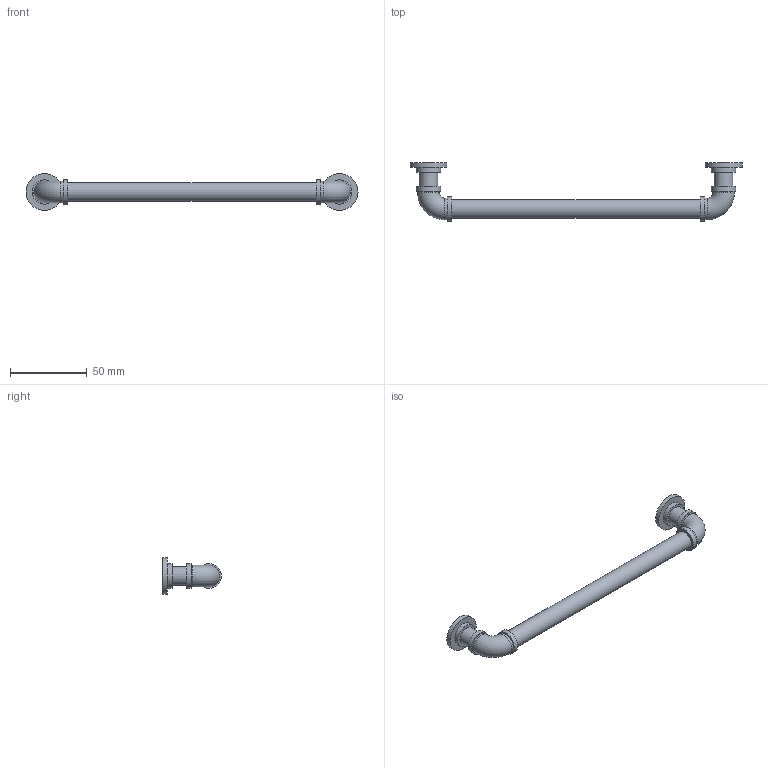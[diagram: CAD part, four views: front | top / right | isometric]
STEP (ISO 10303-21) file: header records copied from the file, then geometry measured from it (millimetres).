
FILE_DESCRIPTION( ( 'STEP AP214' ), '1' );
FILE_NAME( 'D:/Yug/2020/ProDecor_2020/QC/9266564.stp', '2020-06-01T11:59:30', ( '' ), ( '' ), ' ', 'PARTsolutions', ' ' );
FILE_SCHEMA( ( 'AUTOMOTIVE_DESIGN { 1 0 10303 214 1 1 1 1 }' ) );
Length unit declared in the file: millimetre
Products named in the file (1): _9266564
Bounding box: 216 x 38 x 24 mm (x, y, z)
Volume: 32469.4 mm3; surface area: 12117.8 mm2
Topology: 1 solids, 1 shells, 35 faces, 53 edges, 34 vertices
Faces by surface type: cylinder 17, plane 16, torus 2
Full cylindrical faces by diameter (mm): 3.25 x2, 12 x3, 14 x4, 15.8 x4, 16 x2, 24 x2
Entity records: 990 total; most frequent: DIRECTION 140, CARTESIAN_POINT 104, AXIS2_PLACEMENT_3D 70, EDGE_LOOP 68, ORIENTED_EDGE 68, FACE_OUTER_BOUND 54, STYLED_ITEM 35, PRESENTATION_STYLE_ASSIGNMENT 35
